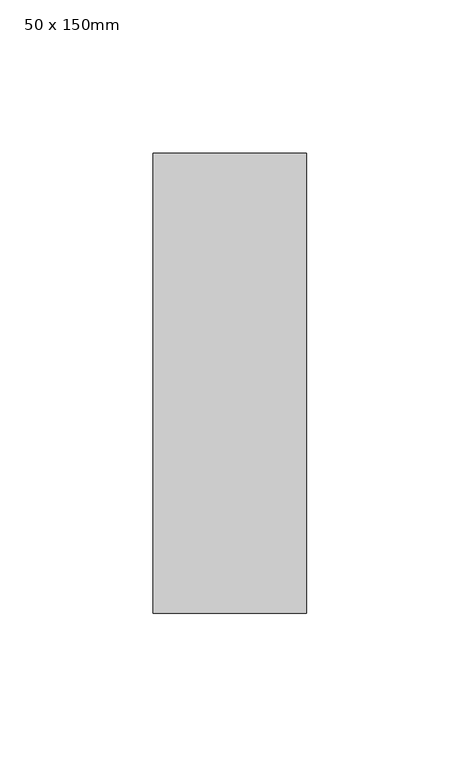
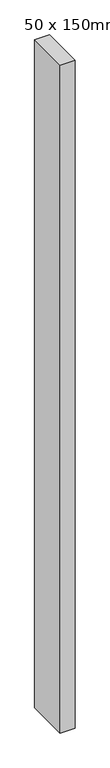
"""IFC4 building model written with IfcOpenShell, lengths in millimetres: member geometry, Prostokątny szpros : 50 x 150mm."""

from ifc_helpers import new_model, si_unit, frame, origin, place, context, project, spatial, polyline, outline, extrude, source, transform, mapped, element, save


def member_50_x_150mm_662c37b1(model_context):
    return source(origin(), model_context, "Body", "SweptSolid", [
        extrude(outline(polyline([(0.0, 75.0), (0.0, -75.0), (-50.0, -75.0), (-50.0, 75.0), (0.0, 75.0)])), frame((0.0, 0.0, -2400.0), z_axis=(0.0, 0.0, 1.0), x_axis=(1.0, 0.0, 0.0)), (0.0, 0.0, 1.0), 2400.0),
    ])


if __name__ == "__main__":
    model = new_model("IFC4")
    model_context = context("Model", 3, world=origin())
    ifc_project = project(units=[si_unit("LENGTHUNIT", "METRE", prefix="MILLI")], contexts=[model_context])
    site = spatial("IfcSite", under=ifc_project)
    building = spatial("IfcBuilding", under=site)
    placement = place(None, origin())
    member_50_x_150mm_shape = member_50_x_150mm_662c37b1(model_context)
    element("IfcMember", 1, ObjectType="Prostokątny szpros : 50 x 150mm", at=placement, inside=building, context=model_context, shape_type="MappedRepresentation", body=[
        mapped(member_50_x_150mm_shape, transform((0.0, 0.0, 0.0), x_axis=(1.0, 0.0, 0.0), y_axis=(0.0, 1.0, 0.0), z_axis=(0.0, 0.0, 1.0))),
    ])
    save(model, "model.ifc")
